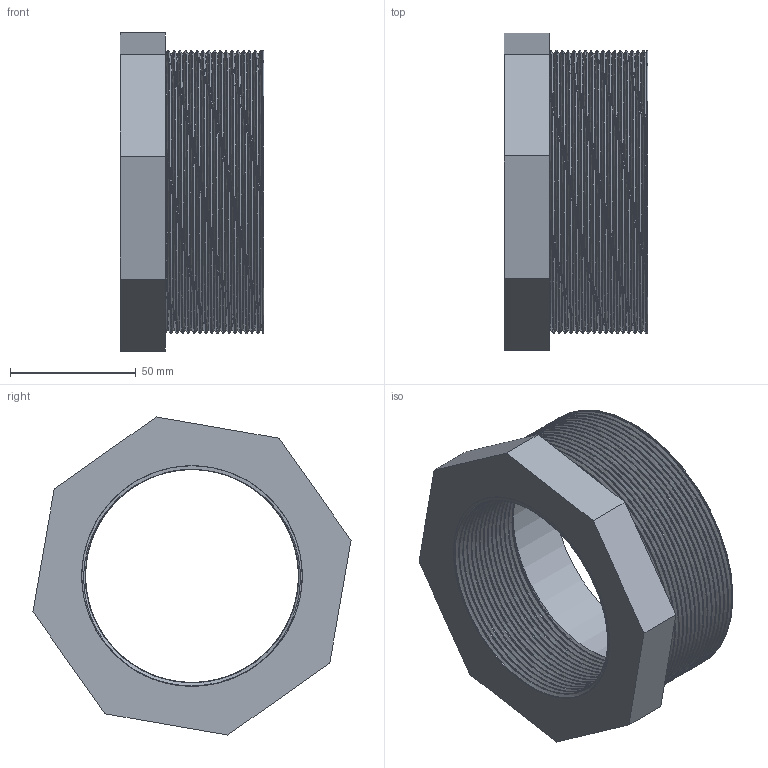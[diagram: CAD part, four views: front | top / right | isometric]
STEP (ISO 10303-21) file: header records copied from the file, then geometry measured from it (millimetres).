
FILE_DESCRIPTION(/* description */ (''),/* implementation_level */ '2;1');
FILE_NAME(/* name */ 'C:\Users\Gabriele\Desktop\disegni 3D\RB91\RB91110I.ipt.stp',/* time_stamp */ '2017-01-24T18:32:14+01:00',/* author */ ('Eugenio'),/* organization */ (''),/* preprocessor_version */ 'ST-DEVELOPER v16.5',/* originating_system */ 'Autodesk Inventor 2017',/* authorisation */ '');
FILE_SCHEMA (('AUTOMOTIVE_DESIGN { 1 0 10303 214 3 1 1 }'));
Length unit declared in the file: millimetre
Products named in the file (1): RB91110I
Bounding box: 57.3 x 126.72 x 126.72 mm (x, y, z)
Volume: 251331.6 mm3; surface area: 111589.2 mm2
Topology: 3 solids, 3 shells, 37 faces, 84 edges, 56 vertices
Faces by surface type: plane 17, bspline 12, cylinder 7, torus 1
Full cylindrical faces by diameter (mm): 87.88 x2, 89.88 x1, 110.016 x2
Entity records: 15274 total; most frequent: CARTESIAN_POINT 14520, ORIENTED_EDGE 156, DIRECTION 108, EDGE_CURVE 78, VERTEX_POINT 56, EDGE_LOOP 52, AXIS2_PLACEMENT_3D 42, B_SPLINE_CURVE_WITH_KNOTS 38
